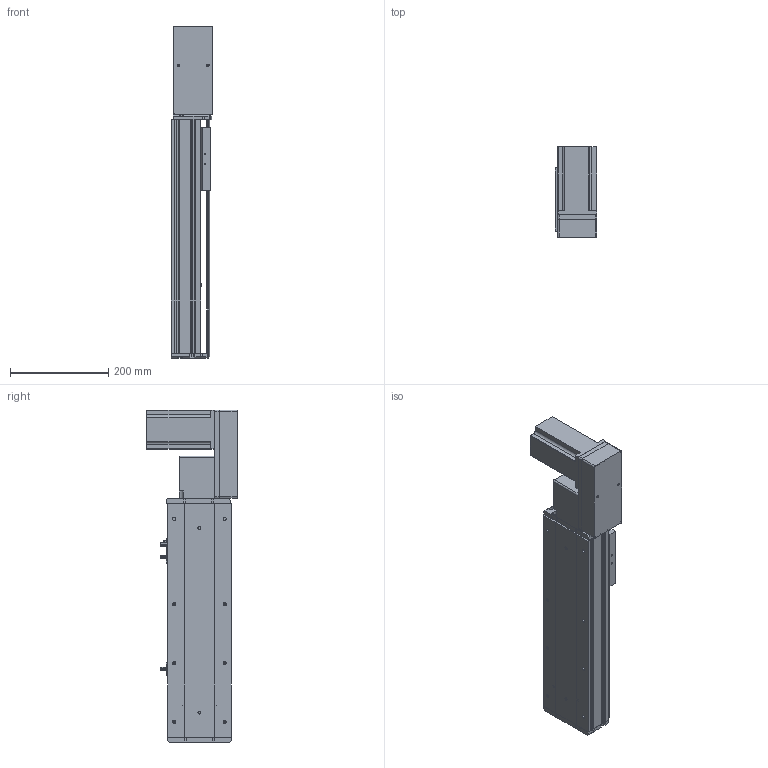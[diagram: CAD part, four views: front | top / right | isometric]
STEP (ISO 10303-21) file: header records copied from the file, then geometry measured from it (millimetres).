
FILE_DESCRIPTION (( 'STEP AP214' ), '1' );
FILE_NAME ('KSD130B-S250-MLB-CM .STEP', '2019-11-14T01:25:02', ( '微软用户' ), ( '微软中国' ), 'SwSTEP 2.0', 'SolidWorks 2014', '' );
FILE_SCHEMA (( 'AUTOMOTIVE_DESIGN' ));
Length unit declared in the file: millimetre
Products named in the file (12): 台达ECMA－C20807AS伺服电机; 130宽模组保护罩上下左右折-同步带; 130宽模组马达安装板连板左右折同步带; 覜茼え100遵圉猾敕; U倰嫖萇EEㄜSX672; 130宽盖板半封闭同步带-250行程; 130宽马达安装板同步带左-改; 130宽马达安装板同步带半封闭; 130宽同步带安装座半封闭; 130宽端盖同步带半封闭; 130宽底板半封闭同步带-250行程; KSD130B-S250-MLB-CM 
Assembly tree (13 placements, depth 2):
  KSD130B-S250-MLB-CM 
    130宽底板半封闭同步带-250行程
    130宽端盖同步带半封闭
    130宽同步带安装座半封闭
    130宽马达安装板同步带半封闭
    130宽马达安装板同步带左-改
    130宽盖板半封闭同步带-250行程
    U倰嫖萇EEㄜSX672  x3
    覜茼え100遵圉猾敕
    130宽模组马达安装板连板左右折同步带
    130宽模组保护罩上下左右折-同步带
    台达ECMA－C20807AS伺服电机
Bounding box: 85 x 184.8 x 677 mm (x, y, z)
Volume: 2965901.6 mm3; surface area: 740889.9 mm2
Topology: 14 solids, 14 shells, 1345 faces, 3741 edges, 2411 vertices
Faces by surface type: cylinder 620, plane 598, cone 127
Entity records: 42151 total; most frequent: CARTESIAN_POINT 7336, DIRECTION 6507, ORIENTED_EDGE 6214, EDGE_CURVE 3107, AXIS2_PLACEMENT_3D 2342, VERTEX_POINT 2035, LINE 1823, VECTOR 1823
